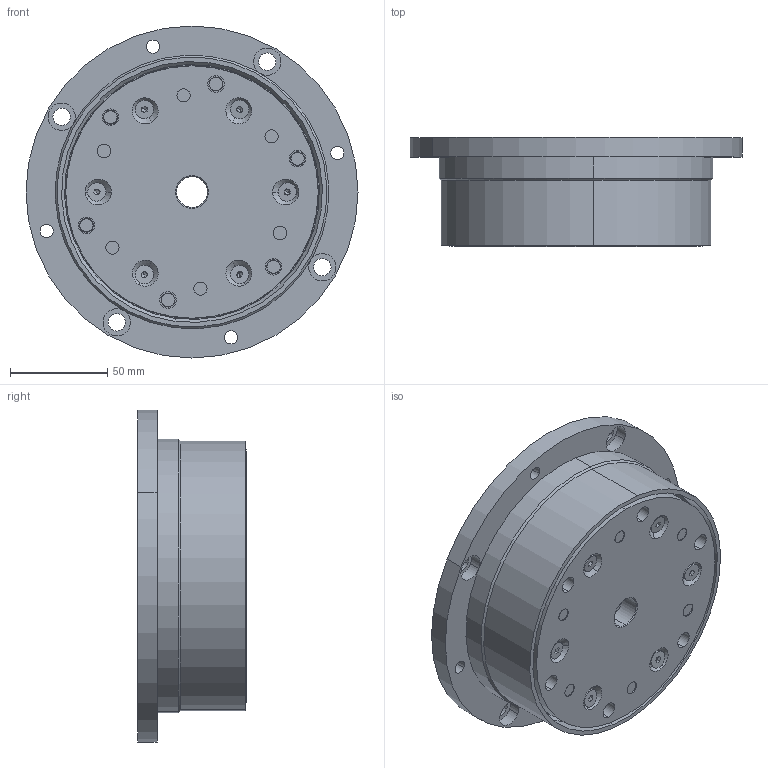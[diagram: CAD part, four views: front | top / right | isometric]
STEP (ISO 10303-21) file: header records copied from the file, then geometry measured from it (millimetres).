
FILE_DESCRIPTION (( 'STEP AP203' ), '1' );
FILE_NAME ('FB-150-130.STEP', '2024-08-08T14:13:43', ( '' ), ( '' ), 'SwSTEP 2.0', 'SolidWorks 2020', '' );
FILE_SCHEMA (( 'CONFIG_CONTROL_DESIGN' ));
Length unit declared in the file: millimetre
Products named in the file (1): FB-150-130
Bounding box: 171 x 56 x 171 mm (x, y, z)
Surface area: 113954.7 mm2 (no closed solid volume)
Topology: 0 solids, 36 shells, 308 faces, 948 edges, 622 vertices
Faces by surface type: plane 134, cylinder 106, cone 52, torus 16
Entity records: 10534 total; most frequent: DIRECTION 1946, CARTESIAN_POINT 1923, ORIENTED_EDGE 1480, EDGE_CURVE 920, AXIS2_PLACEMENT_3D 741, VERTEX_POINT 622, LINE 464, VECTOR 464
